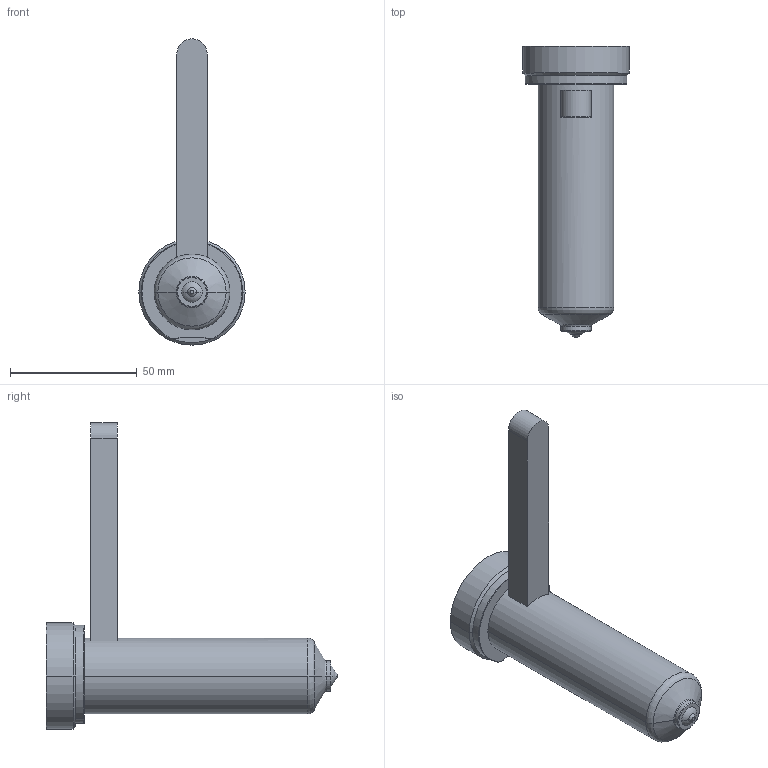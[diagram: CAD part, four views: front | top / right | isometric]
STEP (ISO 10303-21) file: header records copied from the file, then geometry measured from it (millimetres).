
FILE_DESCRIPTION((''),'2;1');
FILE_NAME('EO08_PG-BL_WR_100_COT','2024-02-19T11:06:50',('sundharh'),(''),'CREO PARAMETRIC BY PTC INC, 2023154','CREO PARAMETRIC BY PTC INC, 2023154','');
FILE_SCHEMA(('CONFIG_CONTROL_DESIGN'));
Length unit declared in the file: millimetre
Products named in the file (1): EO08_PG-BL_WR_100_COT
Bounding box: 42 x 115 x 121 mm (x, y, z)
Volume: 96559.9 mm3; surface area: 17041.3 mm2
Topology: 1 solids, 1 shells, 40 faces, 85 edges, 50 vertices
Faces by surface type: cylinder 13, plane 10, torus 9, cone 6, sphere 2
Entity records: 1185 total; most frequent: CARTESIAN_POINT 255, DIRECTION 209, ORIENTED_EDGE 170, AXIS2_PLACEMENT_3D 90, EDGE_CURVE 85, VERTEX_POINT 50, CIRCLE 50, EDGE_LOOP 43
